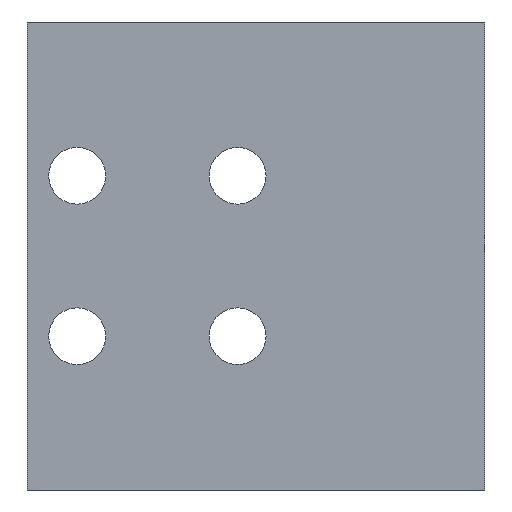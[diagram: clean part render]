
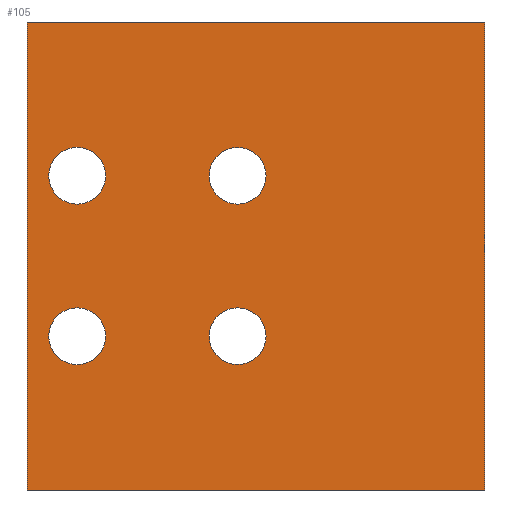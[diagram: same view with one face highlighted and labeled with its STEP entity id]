
A CAD part, front view. The second image highlights one B-rep face of the part: STEP entity #105.
In plain terms, the highlighted planar face has unit normal (0, -1, 0).
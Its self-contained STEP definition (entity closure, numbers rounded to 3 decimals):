
#105 = ADVANCED_FACE( '', ( #272, #273, #274, #275, #276 ), #277, .T. );
#111 = VERTEX_POINT( '', #283 );
#127 = EDGE_CURVE( '', #151, #207, #301, .T. );
#131 = EDGE_CURVE( '', #245, #149, #305, .T. );
#133 = VERTEX_POINT( '', #307 );
#149 = VERTEX_POINT( '', #326 );
#151 = VERTEX_POINT( '', #328 );
#155 = EDGE_CURVE( '', #235, #151, #332, .T. );
#157 = VERTEX_POINT( '', #334 );
#169 = VERTEX_POINT( '', #352 );
#177 = VERTEX_POINT( '', #361 );
#195 = EDGE_CURVE( '', #111, #223, #380, .T. );
#201 = EDGE_CURVE( '', #177, #169, #386, .T. );
#205 = VERTEX_POINT( '', #390 );
#207 = VERTEX_POINT( '', #392 );
#211 = EDGE_CURVE( '', #223, #111, #396, .T. );
#213 = EDGE_CURVE( '', #235, #133, #398, .T. );
#217 = EDGE_CURVE( '', #133, #207, #402, .T. );
#223 = VERTEX_POINT( '', #409 );
#225 = EDGE_CURVE( '', #157, #205, #411, .T. );
#229 = EDGE_CURVE( '', #149, #245, #416, .T. );
#233 = EDGE_CURVE( '', #169, #177, #420, .T. );
#235 = VERTEX_POINT( '', #422 );
#241 = EDGE_CURVE( '', #205, #157, #429, .T. );
#245 = VERTEX_POINT( '', #433 );
#272 = FACE_BOUND( '', #452, .T. );
#273 = FACE_BOUND( '', #453, .T. );
#274 = FACE_BOUND( '', #454, .T. );
#275 = FACE_BOUND( '', #455, .T. );
#276 = FACE_OUTER_BOUND( '', #456, .T. );
#277 = PLANE( '', #457 );
#283 = CARTESIAN_POINT( '', ( -22.5, 0., -12. ) );
#301 = LINE( '', #489, #490 );
#305 = CIRCLE( '', #495, 4.25 );
#307 = CARTESIAN_POINT( '', ( -34.25, 0., 35. ) );
#326 = CARTESIAN_POINT( '', ( -31., 0., 12. ) );
#328 = CARTESIAN_POINT( '', ( 34.25, 0., -35. ) );
#332 = LINE( '', #531, #532 );
#334 = CARTESIAN_POINT( '', ( 1.5, 0., -12. ) );
#352 = CARTESIAN_POINT( '', ( -7., 0., 12. ) );
#361 = CARTESIAN_POINT( '', ( 1.5, 0., 12. ) );
#380 = CIRCLE( '', #591, 4.25 );
#386 = CIRCLE( '', #601, 4.25 );
#390 = CARTESIAN_POINT( '', ( -7., 0., -12. ) );
#392 = CARTESIAN_POINT( '', ( -34.25, 0., -35. ) );
#396 = CIRCLE( '', #614, 4.25 );
#398 = LINE( '', #617, #618 );
#402 = LINE( '', #625, #626 );
#409 = CARTESIAN_POINT( '', ( -31., 0., -12. ) );
#411 = CIRCLE( '', #638, 4.25 );
#416 = CIRCLE( '', #644, 4.25 );
#420 = CIRCLE( '', #651, 4.25 );
#422 = CARTESIAN_POINT( '', ( 34.25, 0., 35. ) );
#429 = CIRCLE( '', #663, 4.25 );
#433 = CARTESIAN_POINT( '', ( -22.5, 0., 12. ) );
#452 = EDGE_LOOP( '', ( #680, #681 ) );
#453 = EDGE_LOOP( '', ( #682, #683 ) );
#454 = EDGE_LOOP( '', ( #684, #685 ) );
#455 = EDGE_LOOP( '', ( #686, #687 ) );
#456 = EDGE_LOOP( '', ( #688, #689, #690, #691 ) );
#457 = AXIS2_PLACEMENT_3D( '', #692, #693, #694 );
#489 = CARTESIAN_POINT( '', ( 34.25, 0., -35. ) );
#490 = VECTOR( '', #717, 1. );
#495 = AXIS2_PLACEMENT_3D( '', #718, #719, #720 );
#531 = CARTESIAN_POINT( '', ( 34.25, 0., 35. ) );
#532 = VECTOR( '', #749, 1. );
#591 = AXIS2_PLACEMENT_3D( '', #805, #806, #807 );
#601 = AXIS2_PLACEMENT_3D( '', #812, #813, #814 );
#614 = AXIS2_PLACEMENT_3D( '', #821, #822, #823 );
#617 = CARTESIAN_POINT( '', ( 34.25, 0., 35. ) );
#618 = VECTOR( '', #824, 1. );
#625 = CARTESIAN_POINT( '', ( -34.25, 0., 35. ) );
#626 = VECTOR( '', #826, 1. );
#638 = AXIS2_PLACEMENT_3D( '', #836, #837, #838 );
#644 = AXIS2_PLACEMENT_3D( '', #847, #848, #849 );
#651 = AXIS2_PLACEMENT_3D( '', #851, #852, #853 );
#663 = AXIS2_PLACEMENT_3D( '', #863, #864, #865 );
#680 = ORIENTED_EDGE( '', *, *, #201, .T. );
#681 = ORIENTED_EDGE( '', *, *, #233, .T. );
#682 = ORIENTED_EDGE( '', *, *, #131, .T. );
#683 = ORIENTED_EDGE( '', *, *, #229, .T. );
#684 = ORIENTED_EDGE( '', *, *, #225, .T. );
#685 = ORIENTED_EDGE( '', *, *, #241, .T. );
#686 = ORIENTED_EDGE( '', *, *, #195, .T. );
#687 = ORIENTED_EDGE( '', *, *, #211, .T. );
#688 = ORIENTED_EDGE( '', *, *, #217, .T. );
#689 = ORIENTED_EDGE( '', *, *, #127, .F. );
#690 = ORIENTED_EDGE( '', *, *, #155, .F. );
#691 = ORIENTED_EDGE( '', *, *, #213, .T. );
#692 = CARTESIAN_POINT( '', ( 34.25, 0., 35. ) );
#693 = DIRECTION( '', ( 0., -1., 0. ) );
#694 = DIRECTION( '', ( 0., 0., 1. ) );
#717 = DIRECTION( '', ( -1., 0., 0. ) );
#718 = CARTESIAN_POINT( '', ( -26.75, 0., 12. ) );
#719 = DIRECTION( '', ( 0., 1., 0. ) );
#720 = DIRECTION( '', ( -1., 0., 0. ) );
#749 = DIRECTION( '', ( 0., 0., -1. ) );
#805 = CARTESIAN_POINT( '', ( -26.75, 0., -12. ) );
#806 = DIRECTION( '', ( 0., 1., 0. ) );
#807 = DIRECTION( '', ( -1., 0., 0. ) );
#812 = CARTESIAN_POINT( '', ( -2.75, 0., 12. ) );
#813 = DIRECTION( '', ( 0., 1., 0. ) );
#814 = DIRECTION( '', ( -1., 0., 0. ) );
#821 = CARTESIAN_POINT( '', ( -26.75, 0., -12. ) );
#822 = DIRECTION( '', ( 0., 1., 0. ) );
#823 = DIRECTION( '', ( -1., 0., 0. ) );
#824 = DIRECTION( '', ( -1., 0., 0. ) );
#826 = DIRECTION( '', ( 0., 0., -1. ) );
#836 = CARTESIAN_POINT( '', ( -2.75, 0., -12. ) );
#837 = DIRECTION( '', ( 0., 1., 0. ) );
#838 = DIRECTION( '', ( -1., 0., 0. ) );
#847 = CARTESIAN_POINT( '', ( -26.75, 0., 12. ) );
#848 = DIRECTION( '', ( 0., 1., 0. ) );
#849 = DIRECTION( '', ( -1., 0., 0. ) );
#851 = CARTESIAN_POINT( '', ( -2.75, 0., 12. ) );
#852 = DIRECTION( '', ( 0., 1., 0. ) );
#853 = DIRECTION( '', ( -1., 0., 0. ) );
#863 = CARTESIAN_POINT( '', ( -2.75, 0., -12. ) );
#864 = DIRECTION( '', ( 0., 1., 0. ) );
#865 = DIRECTION( '', ( -1., 0., 0. ) );
